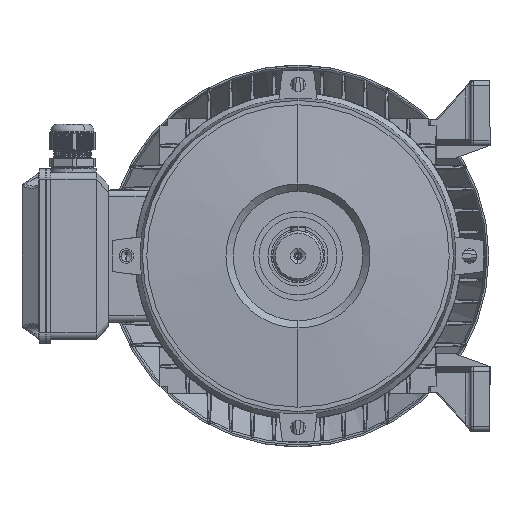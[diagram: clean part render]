
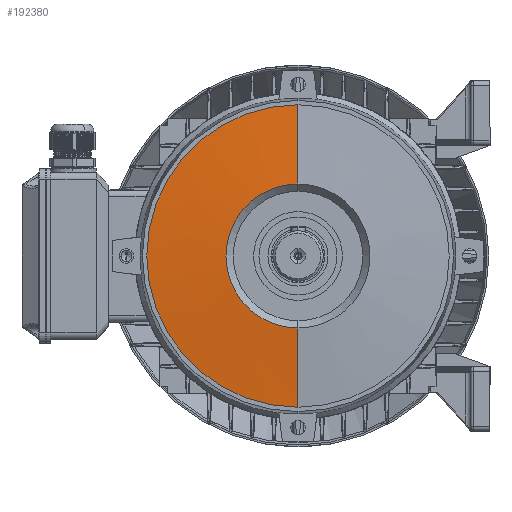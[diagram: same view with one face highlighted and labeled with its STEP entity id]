
A CAD part, left-side view. The second image highlights one B-rep face of the part: STEP entity #192380.
In plain terms, the highlighted conical face has half-angle 85 degrees and reference radius 126 mm.
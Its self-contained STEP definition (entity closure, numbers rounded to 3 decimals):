
#152762 = CARTESIAN_POINT ( 'NONE',  ( -9.226, 0., -126. ) ) ;
#152765 = LINE ( 'NONE', #152762, #152946 ) ;
#152944 = DIRECTION ( 'NONE',  ( 0.087, 0., -0.996 ) ) ;
#152946 = VECTOR ( 'NONE', #152944, 1000. ) ;
#152989 = CARTESIAN_POINT ( 'NONE',  ( -9.226, 0., -126. ) ) ;
#153102 = DIRECTION ( 'NONE',  ( 0., 0., 1. ) ) ;
#153106 = DIRECTION ( 'NONE',  ( -1., 0., 0. ) ) ;
#153109 = CARTESIAN_POINT ( 'NONE',  ( -9.226, 0., 0. ) ) ;
#153111 = AXIS2_PLACEMENT_3D ( 'NONE', #153109, #153106, #153102 ) ;
#153121 = CIRCLE ( 'NONE', #153111, 126. ) ;
#153226 = CARTESIAN_POINT ( 'NONE',  ( -15., 0., 60. ) ) ;
#153582 = AXIS2_PLACEMENT_3D ( 'NONE', #153826, #153795, #153791 ) ;
#153608 = CARTESIAN_POINT ( 'NONE',  ( -9.226, 0., 126. ) ) ;
#153617 = CONICAL_SURFACE ( 'NONE', #153854, 126., 1.484 ) ;
#153632 = CARTESIAN_POINT ( 'NONE',  ( -9.226, 0., 0. ) ) ;
#153637 = FACE_OUTER_BOUND ( 'NONE', #192290, .T. ) ;
#153714 = DIRECTION ( 'NONE',  ( 0., 0., -1. ) ) ;
#153791 = DIRECTION ( 'NONE',  ( 0., 0., 1. ) ) ;
#153795 = DIRECTION ( 'NONE',  ( -1., 0., 0. ) ) ;
#153801 = CARTESIAN_POINT ( 'NONE',  ( -15., 0., -60. ) ) ;
#153814 = DIRECTION ( 'NONE',  ( 0.087, 0., 0.996 ) ) ;
#153817 = VECTOR ( 'NONE', #153814, 1000. ) ;
#153820 = CARTESIAN_POINT ( 'NONE',  ( -9.226, 0., 126. ) ) ;
#153823 = LINE ( 'NONE', #153820, #153817 ) ;
#153826 = CARTESIAN_POINT ( 'NONE',  ( -15., 0., 0. ) ) ;
#153849 = DIRECTION ( 'NONE',  ( 1., 0., 0. ) ) ;
#153854 = AXIS2_PLACEMENT_3D ( 'NONE', #153632, #153849, #153714 ) ;
#153860 = CIRCLE ( 'NONE', #153582, 60. ) ;
#192243 = EDGE_CURVE ( 'NONE', #192392, #192245, #152765, .T. ) ;
#192245 = VERTEX_POINT ( 'NONE', #152989 ) ;
#192260 = EDGE_CURVE ( 'NONE', #192371, #192245, #153121, .T. ) ;
#192290 = EDGE_LOOP ( 'NONE', ( #192382, #192381, #192390, #192351 ) ) ;
#192296 = VERTEX_POINT ( 'NONE', #153226 ) ;
#192351 = ORIENTED_EDGE ( 'NONE', *, *, #192243, .F. ) ;
#192371 = VERTEX_POINT ( 'NONE', #153608 ) ;
#192380 = ADVANCED_FACE ( 'NONE', ( #153637 ), #153617, .T. ) ;
#192381 = ORIENTED_EDGE ( 'NONE', *, *, #192383, .T. ) ;
#192382 = ORIENTED_EDGE ( 'NONE', *, *, #192386, .F. ) ;
#192383 = EDGE_CURVE ( 'NONE', #192296, #192371, #153823, .T. ) ;
#192386 = EDGE_CURVE ( 'NONE', #192296, #192392, #153860, .T. ) ;
#192390 = ORIENTED_EDGE ( 'NONE', *, *, #192260, .T. ) ;
#192392 = VERTEX_POINT ( 'NONE', #153801 ) ;
